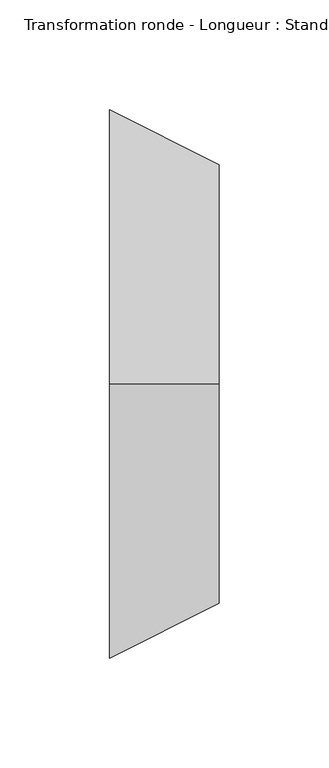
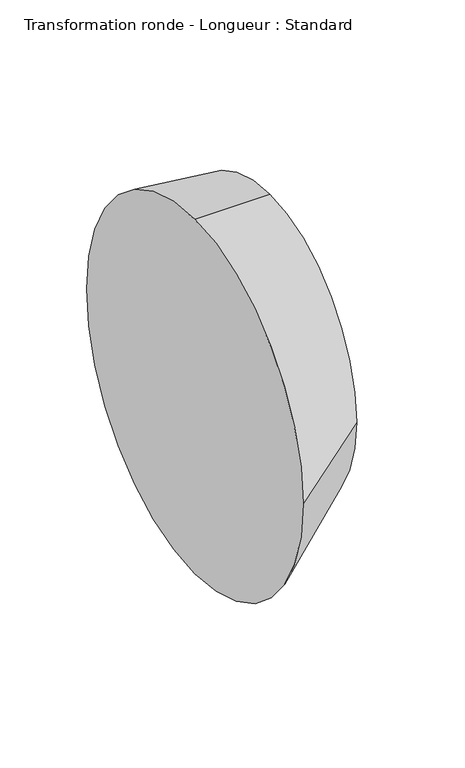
"""IFC4 building model written with IfcOpenShell, lengths in millimetres: duct fitting geometry, Transformation ronde - Longueur : Standard."""

from ifc_helpers import new_model, si_unit, frame, origin, place, context, project, spatial, circle_curve, source, transform, mapped, element, save
from ifc_brep_helpers import plane_surface, spline_surface, advanced_brep


def transformation_ronde_longueur_standard_073085e4(model_context):
    return source(origin(), model_context, "Body", "AdvancedBrep", [
        advanced_brep(
        [(50.0, 100.0, 25.0), (50.0, 0.0, 125.0), (50.0, -100.0, 25.0), (50.0, 0.0, -75.0), (0.0, 125.0, 0.0), (0.0, 0.0, -125.0), (0.0, -125.0, 0.0), (0.0, 0.0, 125.0)],
        [
            (0, 1, circle_curve(frame((50.0, 0.0, 25.0), z_axis=(1.0, 0.0, 0.0), x_axis=(0.0, 1.0, 0.0)), 100.0)),
            (1, 2, circle_curve(frame((50.0, 0.0, 25.0), z_axis=(1.0, 0.0, 0.0), x_axis=(0.0, 1.0, 0.0)), 100.0)),
            (2, 3, circle_curve(frame((50.0, 0.0, 25.0), z_axis=(1.0, 0.0, 0.0), x_axis=(0.0, 1.0, 0.0)), 100.0)),
            (3, 0, circle_curve(frame((50.0, 0.0, 25.0), z_axis=(1.0, 0.0, 0.0), x_axis=(0.0, 1.0, 0.0)), 100.0)),
            (4, 5, circle_curve(frame((0.0, 0.0, 0.0), z_axis=(-1.0, 0.0, 0.0), x_axis=(0.0, 1.0, 0.0)), 125.0)),
            (5, 6, circle_curve(frame((0.0, 0.0, 0.0), z_axis=(-1.0, 0.0, 0.0), x_axis=(0.0, 1.0, 0.0)), 125.0)),
            (6, 7, circle_curve(frame((0.0, 0.0, 0.0), z_axis=(-1.0, 0.0, 0.0), x_axis=(0.0, 1.0, 0.0)), 125.0)),
            (7, 4, circle_curve(frame((0.0, 0.0, 0.0), z_axis=(-1.0, 0.0, 0.0), x_axis=(0.0, 1.0, 0.0)), 125.0)),
            (0, 4),
            (7, 1),
            (6, 2),
            (5, 3),
        ],
        [
            plane_surface(frame((50.0, 0.0, 0.0), z_axis=(1.0, 0.0, 0.0), x_axis=(0.0, 0.0, 1.0))),
            plane_surface(frame((0.0, 0.0, 0.0), z_axis=(-1.0, 0.0, 0.0), x_axis=(0.0, 0.0, 1.0))),
            spline_surface(2, 1, [[(0.0, 125.0, 0.0), (50.0, 100.0, 25.0)], [(0.0, 125.0, 125.0), (50.0, 100.0, 125.0)], [(0.0, 0.0, 125.0), (50.0, 0.0, 125.0)]], [3, 3], [2, 2], [0.0, 1.0], [0.0, 1.0], weights=[[1.0, 1.0], [0.7071067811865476, 0.7071067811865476], [1.0, 1.0]]),
            spline_surface(2, 1, [[(0.0, 0.0, 125.0), (50.0, 0.0, 125.0)], [(0.0, -125.0, 125.0), (50.0, -100.0, 125.0)], [(0.0, -125.0, 0.0), (50.0, -100.0, 25.0)]], [3, 3], [2, 2], [0.0, 1.0], [0.0, 1.0], weights=[[1.0, 1.0], [0.7071067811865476, 0.7071067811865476], [1.0, 1.0]]),
            spline_surface(2, 1, [[(0.0, -125.0, 0.0), (50.0, -100.0, 25.0)], [(0.0, -125.0, -125.0), (50.0, -100.0, -75.0)], [(0.0, 0.0, -125.0), (50.0, 0.0, -75.0)]], [3, 3], [2, 2], [0.0, 1.0], [0.0, 1.0], weights=[[1.0, 1.0], [0.7071067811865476, 0.7071067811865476], [1.0, 1.0]]),
            spline_surface(2, 1, [[(0.0, 0.0, -125.0), (50.0, 0.0, -75.0)], [(0.0, 125.0, -125.0), (50.0, 100.0, -75.0)], [(0.0, 125.0, 0.0), (50.0, 100.0, 25.0)]], [3, 3], [2, 2], [0.0, 1.0], [0.0, 1.0], weights=[[1.0, 1.0], [0.7071067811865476, 0.7071067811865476], [1.0, 1.0]]),
        ],
        [
            (0, [[1, 2, 3, 4]]),
            (1, [[5, 6, 7, 8]]),
            (2, [[-1, 9, -8, 10]]),
            (3, [[-2, -10, -7, 11]]),
            (4, [[-3, -11, -6, 12]]),
            (5, [[-4, -12, -5, -9]]),
        ],
    ),
    ])


if __name__ == "__main__":
    model = new_model("IFC4")
    model_context = context("Model", 3, world=origin())
    ifc_project = project(units=[si_unit("LENGTHUNIT", "METRE", prefix="MILLI")], contexts=[model_context])
    site = spatial("IfcSite", under=ifc_project)
    building = spatial("IfcBuilding", under=site)
    placement = place(None, origin())
    transformation_ronde_longueur_standard_shape = transformation_ronde_longueur_standard_073085e4(model_context)
    element("IfcDuctFitting", 1, ObjectType="Transformation ronde - Longueur : Standard", at=placement, inside=building, context=model_context, shape_type="MappedRepresentation", body=[
        mapped(transformation_ronde_longueur_standard_shape, transform((0.0, 0.0, 0.0), x_axis=(1.0, 0.0, 0.0), y_axis=(0.0, 1.0, 0.0), z_axis=(0.0, 0.0, 1.0))),
    ])
    save(model, "model.ifc")
